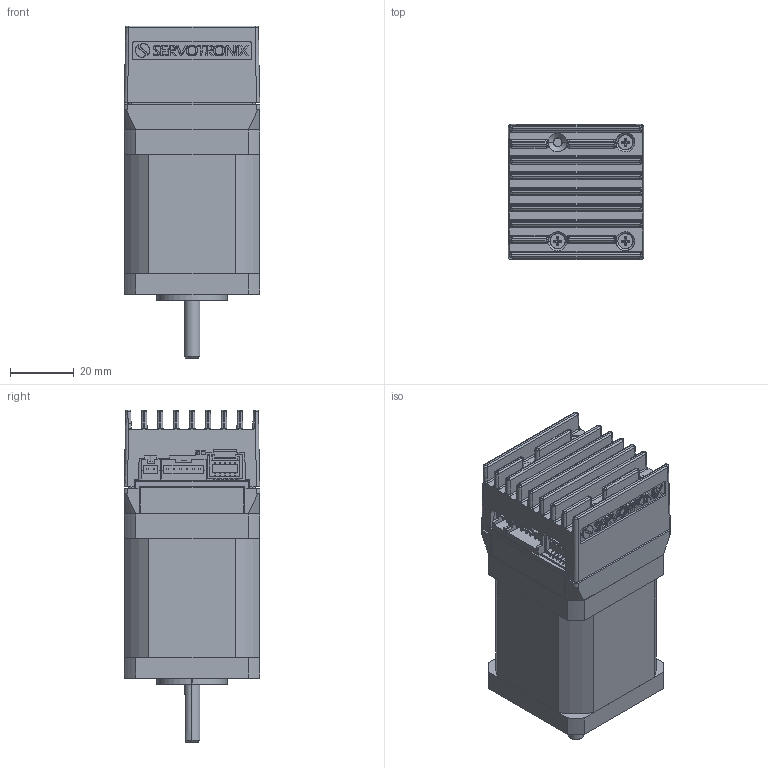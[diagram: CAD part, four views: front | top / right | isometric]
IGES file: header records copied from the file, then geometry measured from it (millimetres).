
Start section: SolidWorks IGES file using analytic representation for surfaces
Global section: file name: C:\Work\Sevotronix\NEMA 17 stepIM 20_3_16\CAD\Injection\models and drawings for website\stepIM_IST-17M12CO10.IGS; native system: SolidWorks 2013; preprocessor: SolidWorks 2013; author: owner; date: 180321.171926; units: millimetre
Bounding box: 42.31 x 42.31 x 103.8 mm (x, y, z)
Surface area: 63356 mm2 (no closed solid volume)
Topology: 0 solids, 0 shells, 1931 faces, 18186 edges, 18178 vertices
Faces by surface type: bspline 1448, revolution 483
